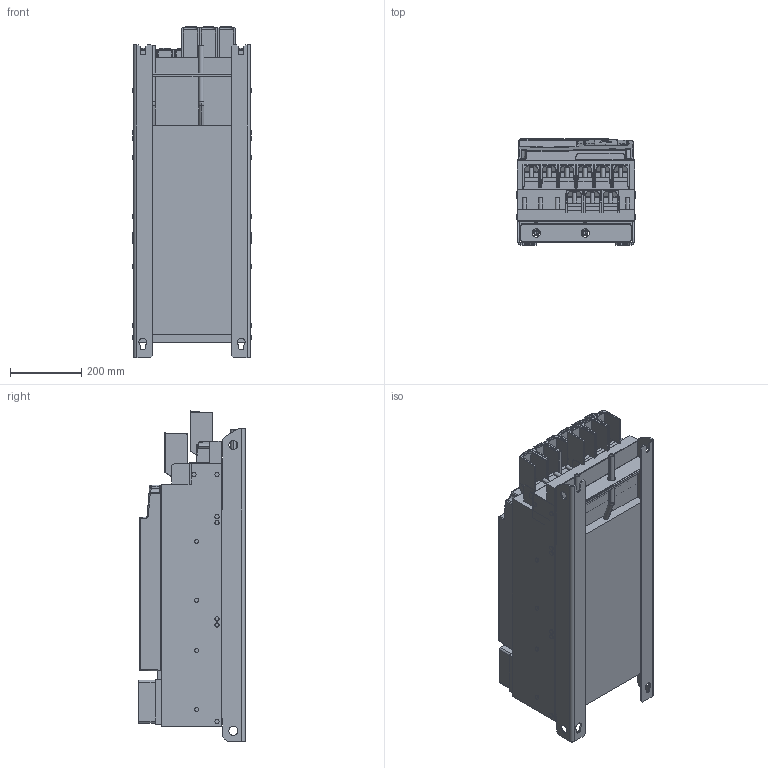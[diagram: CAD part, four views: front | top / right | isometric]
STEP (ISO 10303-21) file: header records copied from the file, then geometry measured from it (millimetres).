
FILE_DESCRIPTION (( 'STEP AP214' ), '1' );
FILE_NAME ('F6-8TW0-A030.STEP', '2021-03-01T14:31:59', ( '' ), ( '' ), 'SwSTEP 2.0', 'SolidWorks 2019', '' );
FILE_SCHEMA (( 'AUTOMOTIVE_DESIGN' ));
Length unit declared in the file: millimetre
Products named in the file (13): 10047771_000_Kundenmodell; 10063887_000_F6-8 Leistungsteil TW0 (Kundenmodell); 10035736_000_Kundenmodell; 10063199_000; 10063898_000; F6-8TW0-A030; 10059765_000; 10063180_000; 10040552_000_Kundenmodell; 10059764_000_Blindabdeckung (Kundenmodell); 10038044_000_Kundemodell; 10059763_000; 10063225_000
Assembly tree (12 placements, depth 4):
  F6-8TW0-A030
    10063887_000_F6-8 Leistungsteil TW0 (Kundenmodell)
      10038044_000_Kundemodell
        10063180_000
      10063898_000
    10040552_000_Kundenmodell
      10047771_000_Kundenmodell
        10063225_000
      10063199_000
    10035736_000_Kundenmodell
      10059764_000_Blindabdeckung (Kundenmodell)
        10059765_000
      10059763_000
Bounding box: 335.5 x 296.9 x 926.37 mm (x, y, z)
Volume: 61970819.4 mm3; surface area: 3010200.7 mm2
Topology: 6 solids, 30 shells, 2918 faces, 7421 edges, 4591 vertices
Faces by surface type: plane 1534, cylinder 822, bspline 227, sphere 154, cone 104, torus 77
Entity records: 93884 total; most frequent: CARTESIAN_POINT 24806, ORIENTED_EDGE 14620, DIRECTION 13641, EDGE_CURVE 7310, VECTOR 4727, LINE 4727, VERTEX_POINT 4588, AXIS2_PLACEMENT_3D 4457
